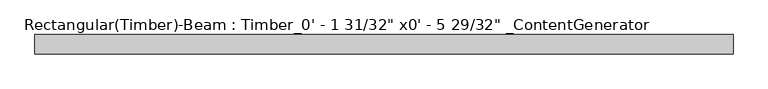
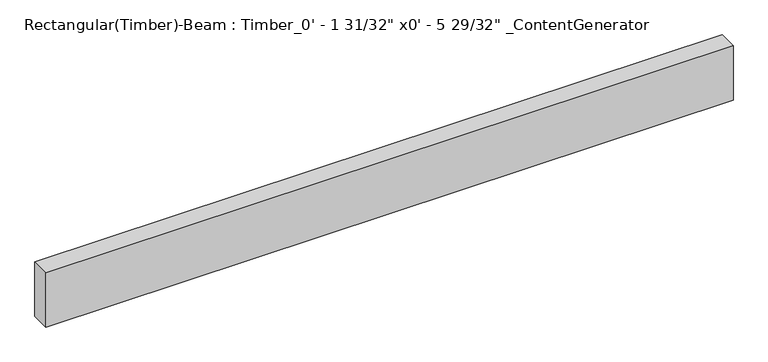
"""IFC4 building model written with IfcOpenShell, lengths in millimetres: beam geometry."""

from ifc_helpers import new_model, si_unit, frame, origin, place, context, project, spatial, polyline, outline, extrude, source, transform, mapped, element, save


def beam_f7cc44c7(model_context):
    return source(origin(), model_context, "Body", "SweptSolid", [
        extrude(outline(polyline([(914.4099994, 25.4), (914.4099994, -25.4), (-914.39, -25.4), (-914.39, 25.4), (914.4099994, 25.4)])), frame((0.0, 0.0, -76.2), z_axis=(0.0, 0.0, 1.0), x_axis=(1.0, 0.0, 0.0)), (0.0, 0.0, 1.0), 152.4),
    ])


if __name__ == "__main__":
    model = new_model("IFC4")
    model_context = context("Model", 3, world=origin())
    ifc_project = project(units=[si_unit("LENGTHUNIT", "METRE", prefix="MILLI")], contexts=[model_context])
    site = spatial("IfcSite", under=ifc_project)
    building = spatial("IfcBuilding", under=site)
    placement = place(None, origin())
    beam_shape = beam_f7cc44c7(model_context)
    element("IfcBeam", 1, ObjectType="Rectangular(Timber)-Beam : Timber_0' - 1 31/32\" x0' - 5 29/32\" _ContentGenerator", at=placement, inside=building, context=model_context, shape_type="MappedRepresentation", body=[
        mapped(beam_shape, transform((0.0, 0.0, 0.0), x_axis=(1.0, 0.0, 0.0), y_axis=(0.0, 1.0, 0.0), z_axis=(0.0, 0.0, 1.0))),
    ])
    save(model, "model.ifc")
